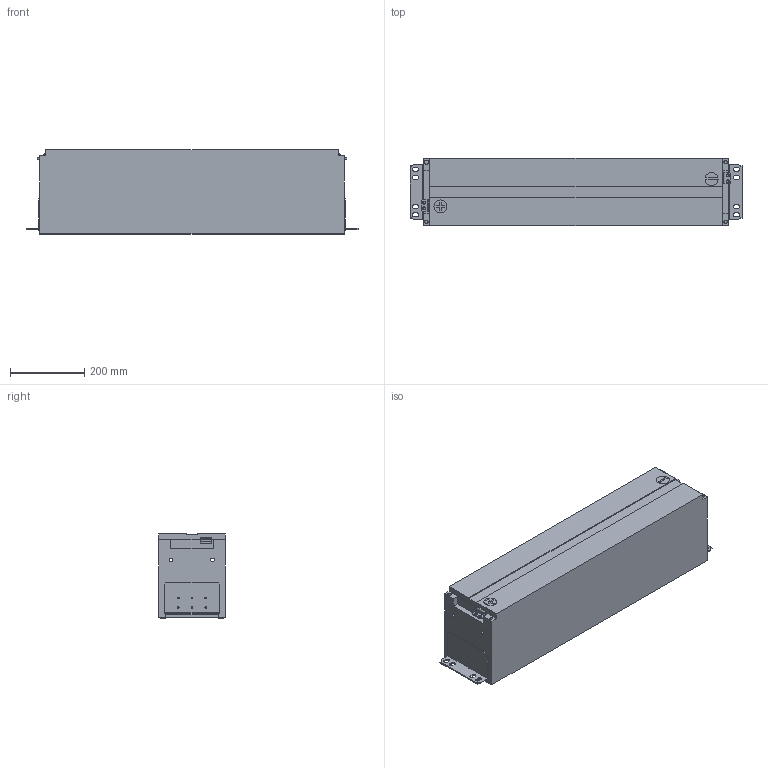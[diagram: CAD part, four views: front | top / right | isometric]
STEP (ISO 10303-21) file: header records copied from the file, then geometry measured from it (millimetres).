
FILE_DESCRIPTION(('CATIA V5 STEP Exchange'),'2;1');
FILE_NAME('E:\work\【02】CBB\二代、三代模组参数化模型\240Ah-11000-1P11S.stp','2017-02-16T07:25:46+00:00',('none'),('none'),'CATIA Version 5 Release 21 GA (IN-10)','CATIA V5 STEP AP214','none');
FILE_SCHEMA(('AUTOMOTIVE_DESIGN { 1 0 10303 214 1 1 1 1 }'));
Length unit declared in the file: millimetre
Products named in the file (1): N176-240M-11000-All
Bounding box: 892.1 x 180 x 226.6 mm (x, y, z)
Volume: 32791922.5 mm3; surface area: 1238824.7 mm2
Topology: 4 solids, 4 shells, 244 faces, 692 edges, 472 vertices
Faces by surface type: plane 158, cylinder 86
Entity records: 7662 total; most frequent: ORIENTED_EDGE 1368, CARTESIAN_POINT 1350, DIRECTION 1062, EDGE_CURVE 684, VECTOR 520, LINE 520, VERTEX_POINT 456, AXIS2_PLACEMENT_3D 358
